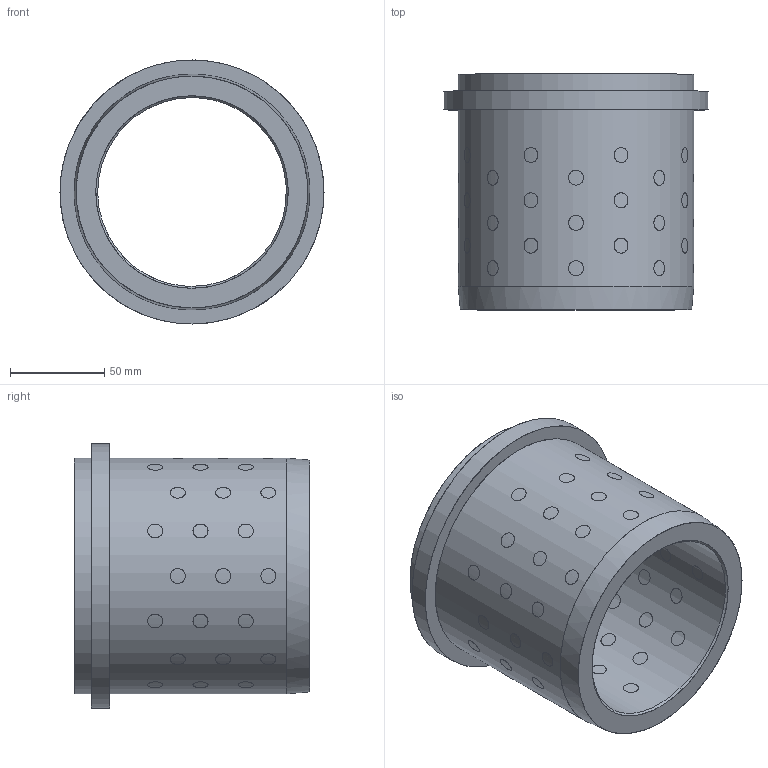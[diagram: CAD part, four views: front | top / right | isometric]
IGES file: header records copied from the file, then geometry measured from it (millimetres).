
Start section: Missler Software BP 521, 31674 Labege Cedex, France Tel   : +33 (0)5 61 00 03 00 Fax   : +33 (0)5 61 00 03 03 Email : sup.topsolid@topsolid.com
Global section: file name: D:\Cuma\D30.06\D30.06_100125.igs; native system: TopSolid v605250 Missler Software; preprocessor: IGES preprocessor v100000; date: 030115.000257; units: millimetre
Bounding box: 140 x 125 x 140 mm (x, y, z)
Surface area: 125422 mm2 (no closed solid volume)
Topology: 0 solids, 0 shells, 179 faces, 3976 edges, 3858 vertices
Faces by surface type: bspline 179
